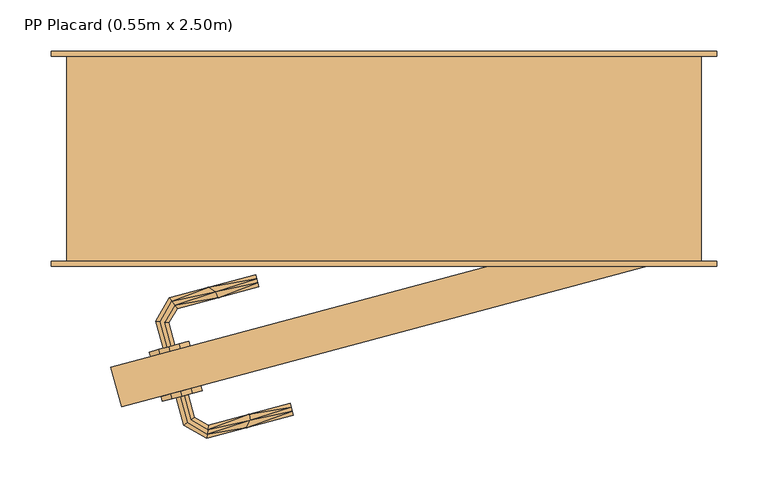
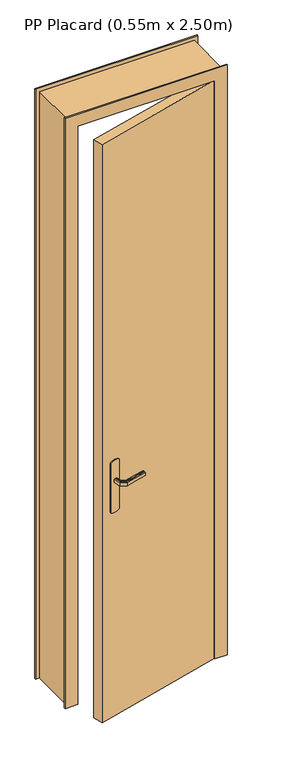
"""IFC4 building model written with IfcOpenShell, lengths in millimetres: door geometry, PP Placard (0.55m x 2.50m)."""

from ifc_helpers import new_model, si_unit, frame, origin, origin_with_axes, place, context, project, spatial, polyline, outline, extrude, faceted_brep, source, transform, mapped, element, save


def pp_placard_0_55m_x_2_50m_a2ca6930(model_context):
    return source(origin(), model_context, "Body", "SolidModel", [
        faceted_brep([(111.0341521, -132.1751471, 1007.7804408), (114.9467286, -131.1267754, 1007.7804408), (118.7859953, -130.098047, 1007.0), (118.7859953, -130.098047, 993.0), (114.9467286, -131.1267754, 992.2195592), (111.0341521, -132.1751471, 992.2195592), (107.1948854, -133.2038755, 993.0), (107.1948854, -133.2038755, 1007.0), (114.351478, -159.9126429, 1007.0), (117.7646315, -157.2936382, 1007.7804408), (137.4204196, -168.6419128, 1007.7804408), (137.9926902, -164.2950864, 1007.7804408), (121.2429582, -154.6246242, 1007.7804408), (124.6561117, -152.0056194, 1007.0), (124.6561117, -152.0056194, 993.0), (121.2429582, -154.6246242, 992.2195592), (137.9926902, -164.2950864, 992.2195592), (137.4204196, -168.6419128, 992.2195592), (117.7646315, -157.2936382, 992.2195592), (114.351478, -159.9126429, 993.0), (136.8588717, -172.9072927, 1007.0), (138.5542381, -160.0297065, 1007.0), (138.5542381, -160.0297065, 993.0), (136.8588717, -172.9072927, 993.0), (221.513993, -150.2240213, 993.0), (220.4852646, -146.3847546, 992.2195592), (219.4368929, -142.4721781, 992.2195592), (218.4081645, -138.6329114, 993.0), (218.4081645, -138.6329114, 1007.0), (219.4368929, -142.4721781, 1007.7804408), (220.4852646, -146.3847546, 1007.7804408), (221.513993, -150.2240213, 1007.0), (175.4287606, -162.5725221, 1007.0), (179.2389774, -155.3399205, 1007.8786868), (178.4812013, -149.3313089, 1007.0), (178.4812013, -149.3313089, 993.0), (179.2389773, -155.3399206, 992.1213132), (175.4287635, -162.5725214, 993.0)], [[[0, 1, 2, 3, 4, 5, 6, 7]], [[8, 9, 0, 7]], [[9, 10, 11, 12, 1, 0]], [[12, 13, 2, 1]], [[3, 2, 13, 14]], [[14, 15, 4, 3]], [[15, 16, 17, 18, 5, 4]], [[18, 19, 6, 5]], [[7, 6, 19, 8]], [[20, 10, 9, 8]], [[11, 21, 13, 12]], [[14, 13, 21, 22]], [[22, 16, 15, 14]], [[17, 23, 19, 18]], [[8, 19, 23, 20]], [[24, 25, 26, 27, 28, 29, 30, 31]], [[32, 30, 33]], [[31, 30, 32]], [[10, 20, 32]], [[33, 34, 11]], [[21, 11, 34]], [[34, 29, 28]], [[30, 29, 33]], [[29, 34, 33]], [[10, 32, 33]], [[10, 33, 11]], [[22, 21, 34, 28, 27, 35]], [[35, 26, 36]], [[37, 36, 25]], [[22, 35, 16]], [[35, 27, 26]], [[24, 37, 25]], [[23, 17, 37]], [[37, 17, 36]], [[17, 16, 36]], [[16, 35, 36]], [[25, 36, 26]], [[20, 23, 37, 24, 31, 32]]]),
        extrude(outline(polyline([(0.0, 0.0), (3.0658951, 9.9818657), (212.1249722, 29.8389109), (217.015302, 20.6127508), (219.3510918, 10.4352539), (218.9731616, 0.0), (215.9072666, -9.9818657), (6.8481894, -29.8389109), (1.9578596, -20.6127508), (-0.3779302, -10.4352539), (0.0, 0.0)])), frame((111.3435833, -85.5048071, 866.0039831), z_axis=(-0.25881904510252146, 0.9659258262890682, 0.0), x_axis=(-0.09133539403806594, -0.024473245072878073, 0.9955194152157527)), (0.0, 0.0, 1.0), 5.0),
        extrude(outline(polyline([(0.0, 0.0), (3.065895, 9.9818658), (212.1249722, 29.838911), (217.015302, 20.6127508), (219.3510918, 10.4352539), (218.9731616, 0.0), (215.9072666, -9.9818657), (6.8481894, -29.8389108), (1.9578596, -20.6127508), (-0.3779302, -10.4352539), (0.0, 0.0)])), frame((122.9904403, -128.9714693, 866.0039831), z_axis=(-0.2588190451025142, 0.9659258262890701, 0.0), x_axis=(-0.09133539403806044, -0.024473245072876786, 0.9955194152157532)), (0.0, 0.0, 1.0), 5.0),
        faceted_brep([(98.0931998, -83.8788558, 1007.7804408), (94.2539331, -84.9075842, 1007.0), (94.2539331, -84.9075842, 993.0), (98.0931998, -83.8788558, 992.2195592), (102.0057764, -82.8304841, 992.2195592), (105.845043, -81.8017556, 993.0), (105.845043, -81.8017556, 1007.0), (102.0057764, -82.8304841, 1007.7804408), (100.0254439, -60.0827159, 993.0), (100.0254439, -60.0827159, 1007.0), (95.760064, -59.521168, 1007.7804408), (105.5277595, -42.603023, 1007.7804408), (102.8587455, -39.1246963, 1007.7804408), (91.4132376, -58.9488974, 1007.7804408), (87.1478577, -58.3873495, 1007.0), (87.1478577, -58.3873495, 993.0), (91.4132376, -58.9488974, 992.2195592), (102.8587455, -39.1246963, 992.2195592), (105.5277595, -42.603023, 992.2195592), (95.760064, -59.521168, 992.2195592), (108.1467642, -46.0161764, 993.0), (108.1467642, -46.0161764, 1007.0), (100.2397408, -35.7115428, 1007.0), (100.2397408, -35.7115428, 993.0), (187.8940856, -24.6479461, 993.0), (186.8653572, -20.8086794, 992.2195592), (185.8169855, -16.8961028, 992.2195592), (184.7882571, -13.0568362, 993.0), (184.7882571, -13.0568362, 1007.0), (185.8169855, -16.8961028, 1007.7804408), (186.8653572, -20.8086794, 1007.7804408), (187.8940856, -24.6479461, 1007.0), (148.0204134, -35.3320643, 993.0), (148.0204249, -35.3320613, 1007.0), (145.6723725, -29.7495629, 1007.8786868), (138.8096296, -25.3767723, 1007.0), (138.8096282, -25.3767727, 993.0), (145.6723727, -29.7495629, 992.1213132)], [[[0, 1, 2, 3, 4, 5, 6, 7]], [[6, 5, 8, 9]], [[9, 10, 7, 6]], [[10, 11, 12, 13, 0, 7]], [[13, 14, 1, 0]], [[2, 1, 14, 15]], [[15, 16, 3, 2]], [[16, 17, 18, 19, 4, 3]], [[19, 8, 5, 4]], [[9, 8, 20, 21]], [[21, 11, 10, 9]], [[12, 22, 14, 13]], [[15, 14, 22, 23]], [[23, 17, 16, 15]], [[18, 20, 8, 19]], [[24, 25, 26, 27, 28, 29, 30, 31]], [[21, 20, 32, 24, 31, 33]], [[33, 30, 34]], [[35, 34, 29]], [[21, 33, 11]], [[33, 31, 30]], [[28, 35, 29]], [[22, 12, 35]], [[35, 12, 34]], [[12, 11, 34]], [[11, 33, 34]], [[29, 34, 30]], [[22, 35, 28, 27, 36, 23]], [[36, 26, 37]], [[27, 26, 36]], [[17, 23, 36]], [[37, 32, 18]], [[20, 18, 32]], [[32, 25, 24]], [[26, 25, 37]], [[25, 32, 37]], [[17, 36, 37]], [[17, 37, 18]]]),
        faceted_brep([(0.0, 200.0, 0.0), (-15.0, 200.0, 0.0), (-15.0, 205.0, 0.0), (50.0, 205.0, 0.0), (50.0, 40.0, 0.0), (35.0, 40.0, 0.0), (35.0, -5.0, 0.0), (-15.0, -5.0, 0.0), (-15.0, 0.0, 0.0), (0.0, 0.0, 0.0), (0.0, 0.0, 2485.0), (0.0, 200.0, 2485.0), (620.0, 200.0, 2485.0), (620.0, 200.0, 0.0), (635.0, 200.0, 0.0), (635.0, 200.0, 2500.0), (-15.0, 200.0, 2500.0), (50.0, 205.0, 2435.0), (50.0, 40.0, 2435.0), (570.0, 40.0, 2435.0), (570.0, 40.0, 0.0), (585.0, 40.0, 0.0), (585.0, 40.0, 2450.0), (35.0, 40.0, 2450.0), (620.0, 0.0, 2485.0), (620.0, 0.0, 0.0), (635.0, 0.0, 0.0), (635.0, -5.0, 0.0), (585.0, -5.0, 0.0), (570.0, 205.0, 0.0), (635.0, 205.0, 0.0), (570.0, 205.0, 2435.0), (35.0, -5.0, 2450.0), (585.0, -5.0, 2450.0), (635.0, -5.0, 2500.0), (-15.0, -5.0, 2500.0), (-15.0, 0.0, 2500.0), (635.0, 0.0, 2500.0), (-15.0, 205.0, 2500.0), (635.0, 205.0, 2500.0)], [[[0, 1, 2, 3, 4, 5, 6, 7, 8, 9]], [[0, 9, 10, 11]], [[1, 0, 11, 12, 13, 14, 15, 16]], [[3, 17, 18, 4]], [[5, 4, 18, 19, 20, 21, 22, 23]], [[12, 24, 25, 13]], [[13, 25, 26, 27, 28, 21, 20, 29, 30, 14]], [[19, 31, 29, 20]], [[11, 10, 24, 12]], [[18, 17, 31, 19]], [[5, 23, 32, 6]], [[7, 6, 32, 33, 28, 27, 34, 35]], [[8, 7, 35, 36]], [[9, 8, 36, 37, 26, 25, 24, 10]], [[2, 1, 16, 38]], [[3, 2, 38, 39, 30, 29, 31, 17]], [[33, 22, 21, 28]], [[37, 34, 27, 26]], [[39, 15, 14, 30]], [[32, 23, 22, 33]], [[36, 35, 34, 37]], [[38, 16, 15, 39]]]),
        extrude(outline(polyline([(43.3880337, -103.7134418), (574.6472382, 38.6370331), (585.0, 0.0), (53.7407955, -142.3504748), (43.3880337, -103.7134418)])), origin_with_axes(), (0.0, 0.0, 1.0), 2450.0),
    ])


if __name__ == "__main__":
    model = new_model("IFC4")
    model_context = context("Model", 3, world=origin())
    ifc_project = project(units=[si_unit("LENGTHUNIT", "METRE", prefix="MILLI")], contexts=[model_context])
    site = spatial("IfcSite", under=ifc_project)
    building = spatial("IfcBuilding", under=site)
    placement = place(None, origin())
    pp_placard_0_55m_x_2_50m_shape = pp_placard_0_55m_x_2_50m_a2ca6930(model_context)
    element("IfcDoor", 1, ObjectType="PP Placard (0.55m x 2.50m)", at=placement, inside=building, context=model_context, shape_type="MappedRepresentation", body=[
        mapped(pp_placard_0_55m_x_2_50m_shape, transform((0.0, 0.0, 0.0), x_axis=(1.0, 0.0, 0.0), y_axis=(0.0, 1.0, 0.0), z_axis=(0.0, 0.0, 1.0))),
    ])
    save(model, "model.ifc")
